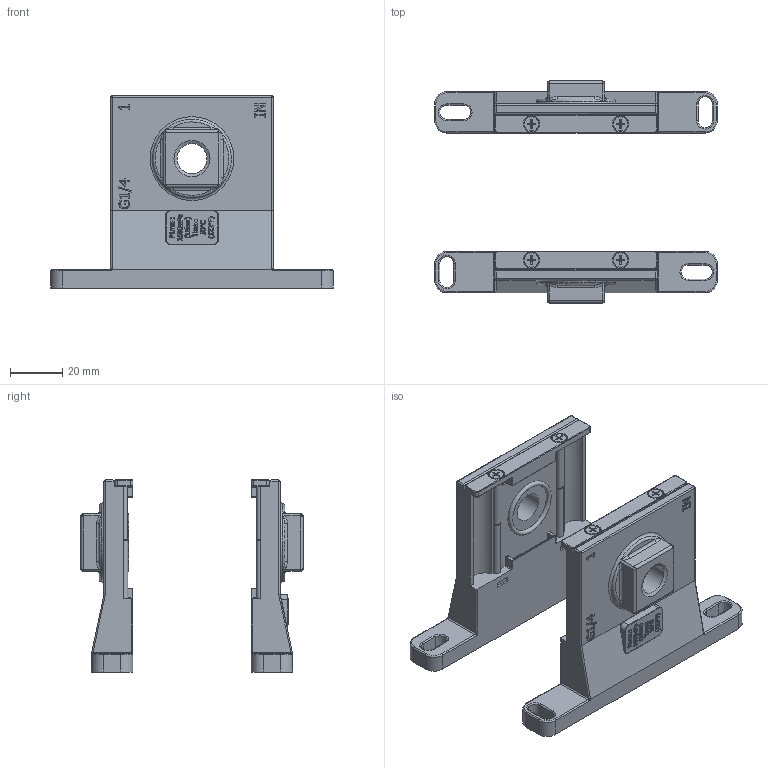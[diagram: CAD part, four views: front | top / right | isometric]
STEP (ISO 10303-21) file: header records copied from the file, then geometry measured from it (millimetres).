
FILE_DESCRIPTION((''),'2;1');
FILE_NAME('K:\ZEICHNG\webgrafik.intern\Air-Techniques Befestigungen und Behälter\step\KKOP-114K - 138K.stp','2013-06-21T08:47:54',('RJanz'),(''),'Autodesk Inventor 2013','Autodesk Inventor 2013','');
FILE_SCHEMA(('CONFIG_CONTROL_DESIGN'));
Length unit declared in the file: millimetre
Products named in the file (1): Bauteil1
Bounding box: 108 x 84.8 x 73.3 mm (x, y, z)
Volume: 75961.3 mm3; surface area: 45375.1 mm2
Topology: 2 solids, 2 shells, 2305 faces, 6109 edges, 3880 vertices
Faces by surface type: plane 1022, bspline 649, cylinder 446, torus 108, cone 56, sphere 24
Full cylindrical faces by diameter (mm): 0.25 x24, 0.3 x8, 2.693 x4, 3 x8, 3.2 x8, 5.5 x4, 6 x2, 11.445 x2
Entity records: 78841 total; most frequent: CARTESIAN_POINT 24050, ORIENTED_EDGE 11838, DIRECTION 8969, EDGE_CURVE 5919, VERTEX_POINT 3854, VECTOR 3375, LINE 3375, AXIS2_PLACEMENT_3D 2797
